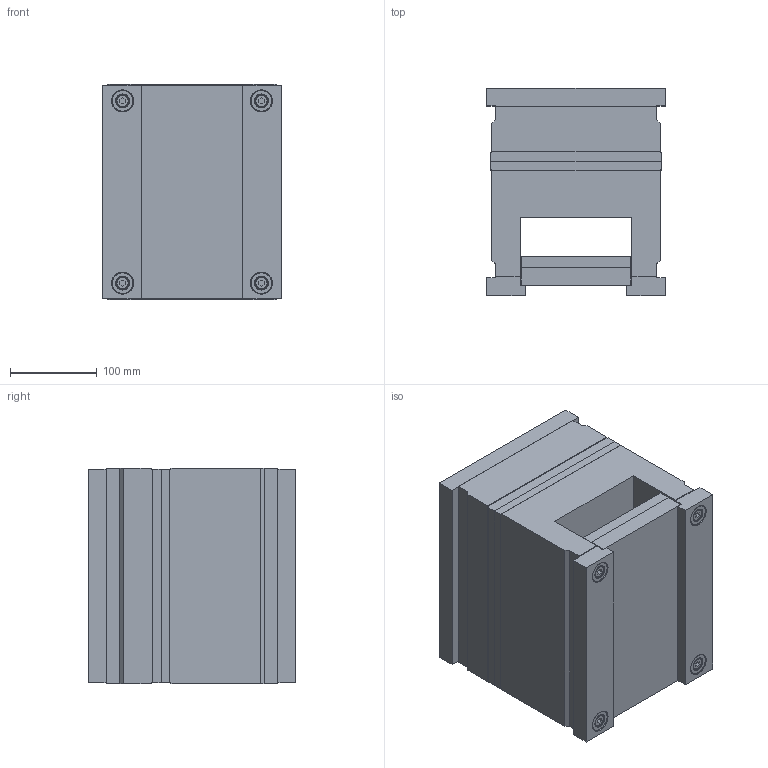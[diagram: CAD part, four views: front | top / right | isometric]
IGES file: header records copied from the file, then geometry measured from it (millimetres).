
Start section: SolidWorks IGES FILE using analytic representation for surfaces
Global section: file name: C:\Documents and Settings\K.P\My Documents\Mechanical\ALMO\CATL_EUR\RECT\1962.IGS; native system: SolidWorks 2001Plus by SolidWorks Corporation; preprocessor: Version 5.3; author: Pavel; date: 020709.091952; units: millimetre
Bounding box: 206 x 239 x 248 mm (x, y, z)
Surface area: 721776.3 mm2 (no closed solid volume)
Topology: 0 solids, 0 shells, 706 faces, 10312 edges, 10304 vertices
Faces by surface type: revolution 452, bspline 254
